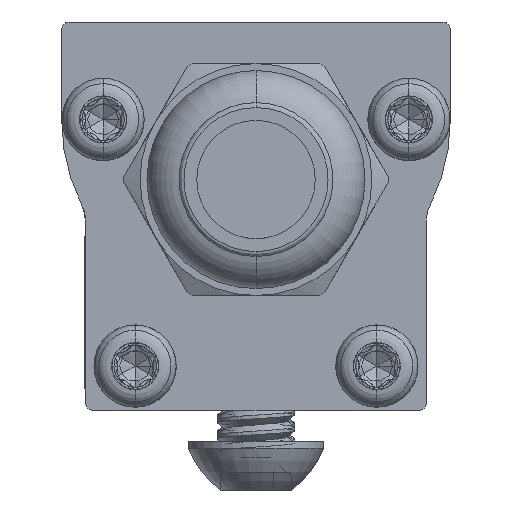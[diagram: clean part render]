
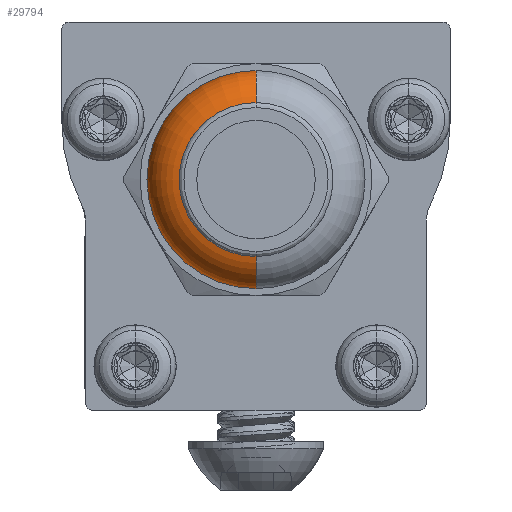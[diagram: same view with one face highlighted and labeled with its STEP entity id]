
A CAD part, left-side view. The second image highlights one B-rep face of the part: STEP entity #29794.
In plain terms, the highlighted toroidal (fillet/blend) face has major radius 3.518 mm and minor radius 2.095 mm.
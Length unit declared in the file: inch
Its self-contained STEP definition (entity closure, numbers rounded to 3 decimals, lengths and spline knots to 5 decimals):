
#2394 = CIRCLE ( 'NONE', #25007, 0.156 ) ;
#4885 = FACE_OUTER_BOUND ( 'NONE', #22694, .T. ) ;
#4894 = ORIENTED_EDGE ( 'NONE', *, *, #6833, .F. ) ;
#5197 = CIRCLE ( 'NONE', #13429, 0.0825 ) ;
#5199 = CARTESIAN_POINT ( 'NONE',  ( -0.31437, 0., 0. ) ) ;
#6292 = AXIS2_PLACEMENT_3D ( 'NONE', #22892, #18890, #9032 ) ;
#6833 = EDGE_CURVE ( 'NONE', #24563, #21739, #20083, .T. ) ;
#8320 = CARTESIAN_POINT ( 'NONE',  ( -0.395, 0., 0.156 ) ) ;
#9032 = DIRECTION ( 'NONE',  ( 0., 0., -1. ) ) ;
#10072 = ORIENTED_EDGE ( 'NONE', *, *, #10928, .F. ) ;
#10101 = CARTESIAN_POINT ( 'NONE',  ( -0.31437, 0., -0.22102 ) ) ;
#10928 = EDGE_CURVE ( 'NONE', #23448, #24175, #2394, .T. ) ;
#11229 = TOROIDAL_SURFACE ( 'NONE', #30582, 0.13852, 0.0825 ) ;
#11873 = CARTESIAN_POINT ( 'NONE',  ( -0.31437, 0., -0.13852 ) ) ;
#12167 = AXIS2_PLACEMENT_3D ( 'NONE', #23116, #25546, #13662 ) ;
#13051 = DIRECTION ( 'NONE',  ( -1., 0., 0. ) ) ;
#13429 = AXIS2_PLACEMENT_3D ( 'NONE', #11873, #21642, #14375 ) ;
#13662 = DIRECTION ( 'NONE',  ( 0., 0., 1. ) ) ;
#13768 = EDGE_CURVE ( 'NONE', #21739, #23448, #23958, .T. ) ;
#14375 = DIRECTION ( 'NONE',  ( 0., 0., 1. ) ) ;
#18890 = DIRECTION ( 'NONE',  ( 0., -1., 0. ) ) ;
#20035 = EDGE_CURVE ( 'NONE', #24563, #24175, #5197, .T. ) ;
#20083 = CIRCLE ( 'NONE', #12167, 0.22102 ) ;
#21546 = DIRECTION ( 'NONE',  ( 0., 0., 1. ) ) ;
#21642 = DIRECTION ( 'NONE',  ( 0., 1., 0. ) ) ;
#21739 = VERTEX_POINT ( 'NONE', #30553 ) ;
#21779 = ORIENTED_EDGE ( 'NONE', *, *, #13768, .F. ) ;
#22694 = EDGE_LOOP ( 'NONE', ( #4894, #29102, #10072, #21779 ) ) ;
#22796 = CARTESIAN_POINT ( 'NONE',  ( -0.395, 0., 0. ) ) ;
#22892 = CARTESIAN_POINT ( 'NONE',  ( -0.31437, 0., 0.13852 ) ) ;
#23116 = CARTESIAN_POINT ( 'NONE',  ( -0.31437, 0., 0. ) ) ;
#23448 = VERTEX_POINT ( 'NONE', #8320 ) ;
#23855 = DIRECTION ( 'NONE',  ( -1., 0., 0. ) ) ;
#23958 = CIRCLE ( 'NONE', #6292, 0.0825 ) ;
#24175 = VERTEX_POINT ( 'NONE', #25898 ) ;
#24563 = VERTEX_POINT ( 'NONE', #10101 ) ;
#25007 = AXIS2_PLACEMENT_3D ( 'NONE', #22796, #13051, #25325 ) ;
#25325 = DIRECTION ( 'NONE',  ( 0., 0., 1. ) ) ;
#25546 = DIRECTION ( 'NONE',  ( 1., 0., 0. ) ) ;
#25898 = CARTESIAN_POINT ( 'NONE',  ( -0.395, 0., -0.156 ) ) ;
#29102 = ORIENTED_EDGE ( 'NONE', *, *, #20035, .T. ) ;
#29794 = ADVANCED_FACE ( 'NONE', ( #4885 ), #11229, .T. ) ;
#30553 = CARTESIAN_POINT ( 'NONE',  ( -0.31437, 0., 0.22102 ) ) ;
#30582 = AXIS2_PLACEMENT_3D ( 'NONE', #5199, #23855, #21546 ) ;
